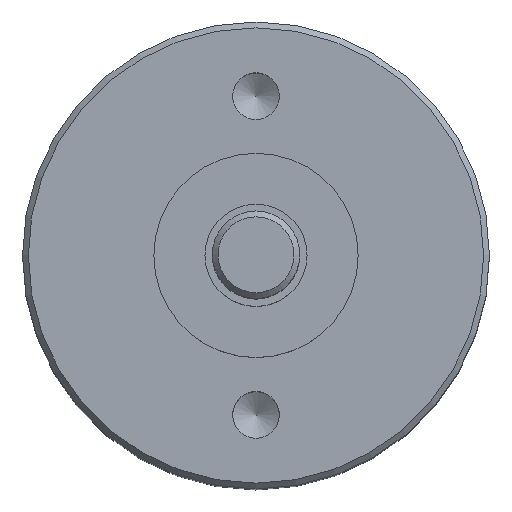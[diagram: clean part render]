
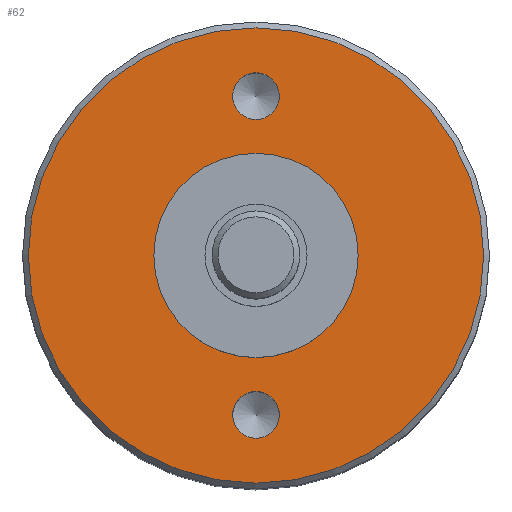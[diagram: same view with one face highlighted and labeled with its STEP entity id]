
A CAD part, top view. The second image highlights one B-rep face of the part: STEP entity #62.
In plain terms, the highlighted planar face has unit normal (0, 0, 1).
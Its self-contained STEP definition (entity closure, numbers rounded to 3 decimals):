
#62=ADVANCED_FACE('',(#107,#108,#109,#110),#86,.T.);
#86=PLANE('',#452);
#107=FACE_BOUND('',#154,.T.);
#108=FACE_BOUND('',#155,.T.);
#109=FACE_BOUND('',#156,.T.);
#110=FACE_BOUND('',#157,.T.);
#154=EDGE_LOOP('',(#207));
#155=EDGE_LOOP('',(#208));
#156=EDGE_LOOP('',(#209));
#157=EDGE_LOOP('',(#210));
#207=ORIENTED_EDGE('',*,*,#292,.T.);
#208=ORIENTED_EDGE('',*,*,#293,.T.);
#209=ORIENTED_EDGE('',*,*,#294,.T.);
#210=ORIENTED_EDGE('',*,*,#291,.T.);
#262=VERTEX_POINT('',#658);
#263=VERTEX_POINT('',#661);
#264=VERTEX_POINT('',#663);
#265=VERTEX_POINT('',#665);
#291=EDGE_CURVE('',#262,#262,#325,.T.);
#292=EDGE_CURVE('',#263,#263,#326,.T.);
#293=EDGE_CURVE('',#264,#264,#327,.T.);
#294=EDGE_CURVE('',#265,#265,#328,.T.);
#325=CIRCLE('',#447,3.5);
#326=CIRCLE('',#449,0.8);
#327=CIRCLE('',#450,0.8);
#328=CIRCLE('',#451,7.8);
#447=AXIS2_PLACEMENT_3D('',#657,#538,#539);
#449=AXIS2_PLACEMENT_3D('',#660,#542,#543);
#450=AXIS2_PLACEMENT_3D('',#662,#544,#545);
#451=AXIS2_PLACEMENT_3D('',#664,#546,#547);
#452=AXIS2_PLACEMENT_3D('',#666,#548,#549);
#538=DIRECTION('',(0.,0.,-1.));
#539=DIRECTION('',(1.,0.,0.));
#542=DIRECTION('',(0.,0.,-1.));
#543=DIRECTION('',(1.,0.,0.));
#544=DIRECTION('',(0.,0.,-1.));
#545=DIRECTION('',(-1.,0.,0.));
#546=DIRECTION('',(0.,0.,1.));
#547=DIRECTION('',(1.,0.,0.));
#548=DIRECTION('',(0.,0.,1.));
#549=DIRECTION('',(1.,0.,0.));
#657=CARTESIAN_POINT('',(0.,0.,0.));
#658=CARTESIAN_POINT('',(3.5,0.,0.));
#660=CARTESIAN_POINT('',(0.,-5.46,0.));
#661=CARTESIAN_POINT('',(0.8,-5.46,0.));
#662=CARTESIAN_POINT('',(0.,5.46,0.));
#663=CARTESIAN_POINT('',(-0.8,5.46,0.));
#664=CARTESIAN_POINT('',(0.,0.,0.));
#665=CARTESIAN_POINT('',(7.8,0.,0.));
#666=CARTESIAN_POINT('',(0.,0.,0.));
